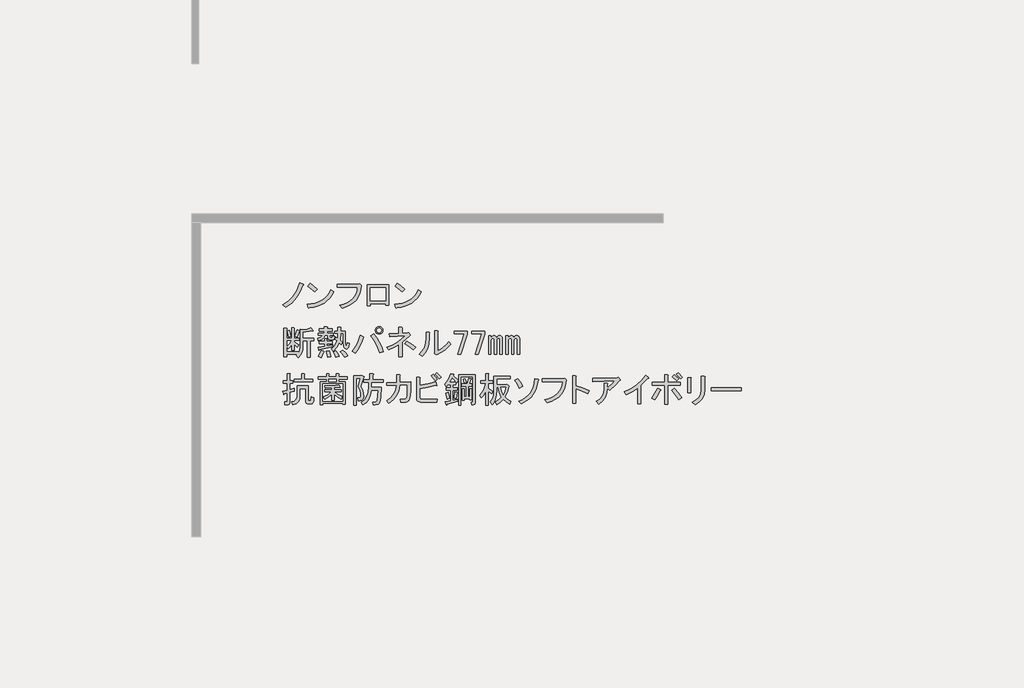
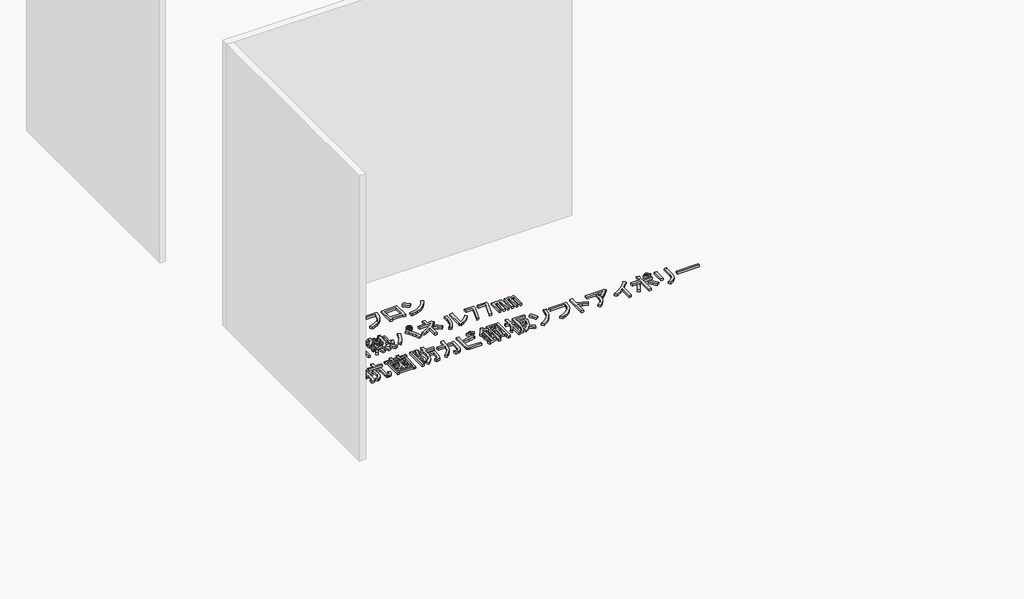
# One storey, part 24 of 117: 1 proxy.
"""IFC4 building model written with IfcOpenShell, lengths in millimetres."""

from ifc_helpers import new_model, si_unit, frame, origin, place, context, project, spatial, polyline, outline, extrude, element, save

model = new_model("IFC4")

# Units and contexts
model_context = context("Model", 3, world=origin())
ifc_project = project(units=[si_unit("LENGTHUNIT", "METRE", prefix="MILLI")], contexts=[model_context])

# Site, building, storey
site = spatial("IfcSite", under=ifc_project)
building = spatial("IfcBuilding", under=site)
storey = spatial("IfcBuildingStorey", under=building, Name="レベル 1", Elevation=500.0)

# Proxy
placement = place(None, origin())
element("IfcBuildingElementProxy", 1, Name="200㎜\u3000MS Pゴシック", ObjectType="200㎜\u3000MS Pゴシック", at=placement, inside=storey, context=model_context, shape_type="SweptSolid", body=[
    extrude(outline(polyline([(-7056.3293015, -607.0496882), (-7081.9047498, -666.8215225), (-7110.353844, -712.7998566), (-7152.0217093, -758.2034615), (-7201.1610538, -795.560858), (-7228.7480543, -773.7211493), (-7181.0455327, -743.2605029), (-7141.3892195, -704.7536481), (-7124.0036619, -680.8305462), (-7108.6296565, -652.7406577), (-7095.2672031, -620.4839827), (-7083.9163019, -584.0605212), (-7052.8809264, -597.8540214), (-7049.7199159, -602.4518548), (-7056.3293015, -607.0496882)])), frame((0.0, 0.0, 500.0), z_axis=(0.0, 0.0, 1.0), x_axis=(1.0, 0.0, 0.0)), (0.0, 0.0, 1.0), 25.0),
    extrude(outline(polyline([(-6956.6022948, -662.2236891), (-7015.2246708, -615.0958967), (-6995.6838788, -590.9572713), (-6968.3842429, -610.7854279), (-6934.7625862, -640.3839804), (-6956.6022948, -662.2236891)])), frame((0.0, 0.0, 500.0), z_axis=(0.0, 0.0, 1.0), x_axis=(1.0, 0.0, 0.0)), (0.0, 0.0, 1.0), 25.0),
    extrude(outline(polyline([(-6794.5286672, -662.2236891), (-6811.052131, -691.965924), (-6830.1618761, -717.9724192), (-6851.8579025, -740.2431748), (-6876.1402102, -758.7781907), (-6903.0087992, -773.577467), (-6932.4636694, -784.6410036), (-6964.504821, -791.9688006), (-6999.1322539, -795.560858), (-7004.8795456, -803.6070664), (-7010.6268374, -797.8597747), (-7019.8225042, -767.9738575), (-6983.9917321, -765.2977748), (-6951.2142088, -758.9937141), (-6921.4899342, -749.0616756), (-6894.8189084, -735.5016591), (-6871.2011313, -718.3136646), (-6850.636603, -697.4976923), (-6833.1253234, -673.053742), (-6818.6672926, -644.9818138), (-6794.5286672, -662.2236891)])), frame((0.0, 0.0, 500.0), z_axis=(0.0, 0.0, 1.0), x_axis=(1.0, 0.0, 0.0)), (0.0, 0.0, 1.0), 25.0),
    extrude(outline(polyline([(-6743.7685864, -777.1695243), (-6709.985287, -767.4889298), (-6680.4765359, -755.1142922), (-6655.242333, -740.0456116), (-6634.2826783, -722.282888), (-6617.597572, -701.8261214), (-6605.1870138, -678.6753118), (-6597.0510039, -652.8304591), (-6593.1895423, -624.2915635), (-6765.6082951, -624.2915635), (-6765.6082951, -599.0034798), (-6590.8906256, -599.0034798), (-6574.7982086, -595.5551047), (-6562.1541668, -607.0496882), (-6565.674383, -643.5449909), (-6573.9361149, -676.5919185), (-6586.9393625, -706.1904711), (-6604.6841258, -732.3406486), (-6627.1704048, -755.042451), (-6654.3981995, -774.2958784), (-6686.3675099, -790.1009308), (-6723.078336, -802.4576081), (-6743.7685864, -777.1695243)])), frame((0.0, 0.0, 500.0), z_axis=(0.0, 0.0, 1.0), x_axis=(1.0, 0.0, 0.0)), (0.0, 0.0, 1.0), 25.0),
    extrude(outline(polyline([(-6329.044013, -776.020066), (-6355.4815551, -776.020066), (-6355.4815551, -763.3760241), (-6483.0714321, -763.3760241), (-6483.0714321, -781.7673577), (-6509.5089742, -781.7673577), (-6509.5089742, -602.4518548), (-6329.044013, -602.4518548), (-6329.044013, -776.020066)]), holes=[polyline([(-6483.0714321, -627.7399386), (-6483.0714321, -738.0879404), (-6355.4815551, -738.0879404), (-6355.4815551, -627.7399386), (-6483.0714321, -627.7399386)])]), frame((0.0, 0.0, 500.0), z_axis=(0.0, 0.0, 1.0), x_axis=(1.0, 0.0, 0.0)), (0.0, 0.0, 1.0), 25.0),
    extrude(outline(polyline([(-6052.9900951, -662.2236891), (-6069.5135589, -691.965924), (-6088.623304, -717.9724192), (-6110.3193304, -740.2431748), (-6134.6016381, -758.7781907), (-6161.4702271, -773.577467), (-6190.9250974, -784.6410036), (-6222.9662489, -791.9688006), (-6257.5936818, -795.560858), (-6263.3409736, -803.6070664), (-6269.0882653, -797.8597747), (-6278.2839321, -767.9738575), (-6242.4531601, -765.2977748), (-6209.6756367, -758.9937141), (-6179.9513622, -749.0616756), (-6153.2803363, -735.5016591), (-6129.6625593, -718.3136646), (-6109.0980309, -697.4976923), (-6091.5867514, -673.053742), (-6077.1287205, -644.9818138), (-6052.9900951, -662.2236891)])), frame((0.0, 0.0, 500.0), z_axis=(0.0, 0.0, 1.0), x_axis=(1.0, 0.0, 0.0)), (0.0, 0.0, 1.0), 25.0),
    extrude(outline(polyline([(-6215.0637228, -662.2236891), (-6273.6860987, -615.0958967), (-6254.1453067, -590.9572713), (-6226.8456709, -610.7854279), (-6193.2240141, -640.3839804), (-6215.0637228, -662.2236891)])), frame((0.0, 0.0, 500.0), z_axis=(0.0, 0.0, 1.0), x_axis=(1.0, 0.0, 0.0)), (0.0, 0.0, 1.0), 25.0),
    extrude(outline(polyline([(-7122.9978859, -1039.2345221), (-7105.7560106, -986.3594379), (-7085.0657603, -992.1067296), (-7083.3415727, -995.2677401), (-7087.364677, -997.8540214), (-7104.6065523, -1046.1312722), (-7122.9978859, -1039.2345221)])), frame((0.0, 0.0, 500.0), z_axis=(0.0, 0.0, 1.0), x_axis=(1.0, 0.0, 0.0)), (0.0, 0.0, 1.0), 25.0),
    extrude(outline(polyline([(-6968.9704667, -990.9572713), (-6970.6946542, -995.5551047), (-6978.1661335, -993.256188), (-7055.1798431, -1005.9002299), (-7055.1798431, -1055.326939), (-6963.2231749, -1055.326939), (-6963.2231749, -1077.1666477), (-6994.2585505, -1077.1666477), (-6994.2585505, -1217.4005666), (-7017.2477175, -1217.4005666), (-7017.2477175, -1077.1666477), (-7055.1798431, -1077.1666477), (-7055.1798431, -1126.5933568), (-7057.7661244, -1154.3958807), (-7065.5249683, -1179.1810764), (-7078.4563747, -1200.948944), (-7096.5603438, -1219.6994833), (-7113.8022191, -1200.1586914), (-7103.4570939, -1190.9630245), (-7193.1148454, -1190.9630245), (-7193.1148454, -1212.8027332), (-7216.1040124, -1212.8027332), (-7216.1040124, -973.715396), (-7194.2643037, -973.715396), (-7189.3791057, -976.0143127), (-7193.1148454, -980.6121461), (-7193.1148454, -1056.4763974), (-7150.5848863, -1056.4763974), (-7150.5848863, -969.1175626), (-7132.1935527, -969.1175626), (-7127.3083547, -971.4164793), (-7131.0440943, -976.0143127), (-7131.0440943, -1056.4763974), (-7087.364677, -1056.4763974), (-7087.364677, -1074.867731), (-7131.0440943, -1074.867731), (-7131.0440943, -1084.0633978), (-7090.813052, -1110.5009399), (-7104.6065523, -1132.3406486), (-7131.0440943, -1105.9031065), (-7131.0440943, -1158.7781907), (-7150.5848863, -1158.7781907), (-7150.5848863, -1110.5009399), (-7163.8036574, -1130.3290965), (-7178.1718868, -1146.1341488), (-7190.8159287, -1127.7428152), (-7168.97622, -1103.6041898), (-7151.7343447, -1074.867731), (-7193.1148454, -1074.867731), (-7193.1148454, -1169.1233159), (-7095.4108854, -1169.1233159), (-7095.4108854, -1182.9168161), (-7082.479479, -1158.7781907), (-7078.1690102, -1125.4438985), (-7078.1690102, -980.6121461), (-7056.3293015, -986.3594379), (-7020.1213634, -978.8879586), (-6989.660717, -965.6691875), (-6968.9704667, -990.9572713)])), frame((0.0, 0.0, 500.0), z_axis=(0.0, 0.0, 1.0), x_axis=(1.0, 0.0, 0.0)), (0.0, 0.0, 1.0), 25.0),
    extrude(outline(polyline([(-7177.0224284, -1047.2807305), (-7189.6664703, -996.7045631), (-7170.1256783, -989.8078129), (-7162.3668344, -1013.9464383), (-7157.4816364, -1040.3839804), (-7177.0224284, -1047.2807305)])), frame((0.0, 0.0, 500.0), z_axis=(0.0, 0.0, 1.0), x_axis=(1.0, 0.0, 0.0)), (0.0, 0.0, 1.0), 25.0),
    extrude(outline(polyline([(-6878.1632569, -1167.9738575), (-6874.7148818, -1172.8590555), (-6880.4621736, -1176.020066), (-6890.2325696, -1201.5955143), (-6901.1524239, -1220.8489417), (-6924.141591, -1209.3543582), (-6911.4975491, -1185.790462), (-6901.1524239, -1158.7781907), (-6878.1632569, -1167.9738575)])), frame((0.0, 0.0, 500.0), z_axis=(0.0, 0.0, 1.0), x_axis=(1.0, 0.0, 0.0)), (0.0, 0.0, 1.0), 25.0),
    extrude(outline(polyline([(-6833.3343812, -1163.3760241), (-6823.2766206, -1190.67566), (-6818.3914226, -1212.8027332), (-6847.1278814, -1218.550025), (-6849.7141627, -1196.9976809), (-6857.4730066, -1166.8243992), (-6833.3343812, -1163.3760241)])), frame((0.0, 0.0, 500.0), z_axis=(0.0, 0.0, 1.0), x_axis=(1.0, 0.0, 0.0)), (0.0, 0.0, 1.0), 25.0),
    extrude(outline(polyline([(-6718.388546, -1157.6287323), (-6693.6751914, -1178.8937119), (-6674.7091286, -1203.6070664), (-6701.1466707, -1218.550025), (-6720.4000981, -1188.9514724), (-6739.0787963, -1169.1233159), (-6718.388546, -1157.6287323)])), frame((0.0, 0.0, 500.0), z_axis=(0.0, 0.0, 1.0), x_axis=(1.0, 0.0, 0.0)), (0.0, 0.0, 1.0), 25.0),
    extrude(outline(polyline([(-6777.0109219, -1216.2511083), (-6785.344495, -1191.5377537), (-6798.8506306, -1170.2727742), (-6778.1603803, -1162.2265657), (-6761.2058696, -1183.7789098), (-6749.4239215, -1207.0554415), (-6777.0109219, -1216.2511083)])), frame((0.0, 0.0, 500.0), z_axis=(0.0, 0.0, 1.0), x_axis=(1.0, 0.0, 0.0)), (0.0, 0.0, 1.0), 25.0),
    extrude(outline(polyline([(-6916.0953825, -1153.0308989), (-6918.1069346, -1157.9160969), (-6921.8426743, -1156.479274), (-6927.589966, -1132.3406486), (-6872.4159651, -1124.2944401), (-6872.4159651, -1101.3052731), (-6916.0953825, -1101.3052731), (-6916.0953825, -1082.9139395), (-6872.4159651, -1082.9139395), (-6872.4159651, -1059.9247724), (-6854.0246315, -1059.9247724), (-6849.1394335, -1062.2236891), (-6852.8751732, -1066.8215225), (-6852.8751732, -1082.9139395), (-6808.0462974, -1082.9139395), (-6808.0462974, -1101.3052731), (-6852.8751732, -1101.3052731), (-6852.8751732, -1120.8460651), (-6802.2990057, -1111.6503983), (-6802.2990057, -1127.7428152), (-6916.0953825, -1153.0308989)])), frame((0.0, 0.0, 500.0), z_axis=(0.0, 0.0, 1.0), x_axis=(1.0, 0.0, 0.0)), (0.0, 0.0, 1.0), 25.0),
    extrude(outline(polyline([(-6845.978423, -1031.1883136), (-6871.2665068, -1031.1883136), (-6875.8643402, -1048.6457123), (-6886.2094654, -1061.9363245), (-6902.3018823, -1071.0601502), (-6924.141591, -1076.0171893), (-6928.7394244, -1056.4763974), (-6903.4513406, -1047.8554597), (-6895.9798614, -1040.5276627), (-6891.9567571, -1031.1883136), (-6927.589966, -1031.1883136), (-6927.589966, -1012.79698), (-6873.5654235, -1012.79698), (-6873.5654235, -995.5551047), (-6917.2448409, -995.5551047), (-6917.2448409, -977.1637711), (-6873.5654235, -977.1637711), (-6873.5654235, -958.7724374), (-6851.7257148, -958.7724374), (-6846.8405168, -961.0713541), (-6850.5762564, -965.6691875), (-6850.5762564, -977.1637711), (-6808.0462974, -977.1637711), (-6808.0462974, -995.5551047), (-6850.5762564, -995.5551047), (-6850.5762564, -1012.79698), (-6797.7011723, -1012.79698), (-6797.7011723, -1031.1883136), (-6826.4376311, -1031.1883136), (-6826.4376311, -1043.8323555), (-6825.0008081, -1049.0049181), (-6820.6903393, -1050.7291056), (-6810.3452141, -1050.7291056), (-6806.6094745, -1047.5680951), (-6806.8968391, -1038.0850637), (-6787.3560471, -1040.3839804), (-6790.229693, -1061.9363245), (-6795.5459378, -1067.3244106), (-6803.448464, -1069.1204392), (-6827.5870894, -1069.1204392), (-6841.3805896, -1064.2352412), (-6845.978423, -1049.5796472), (-6845.978423, -1031.1883136)])), frame((0.0, 0.0, 500.0), z_axis=(0.0, 0.0, 1.0), x_axis=(1.0, 0.0, 0.0)), (0.0, 0.0, 1.0), 25.0),
    extrude(outline(polyline([(-6714.9401709, -1013.9464383), (-6736.7798796, -1013.9464383), (-6741.377713, -1071.4193559), (-6721.836921, -1089.8106896), (-6732.1820462, -1111.6503983), (-6748.2744631, -1095.5579813), (-6767.5278905, -1133.2027424), (-6797.7011723, -1165.6749408), (-6814.9430475, -1144.9846905), (-6799.8564067, -1133.0590601), (-6786.7813179, -1117.9724192), (-6775.7177813, -1099.7247679), (-6766.6657967, -1078.316106), (-6783.907672, -1063.3731475), (-6775.8614636, -1046.1312722), (-6762.0679633, -1056.4763974), (-6759.7690466, -1013.9464383), (-6787.3560471, -1013.9464383), (-6787.3560471, -995.5551047), (-6759.7690466, -995.5551047), (-6759.7690466, -961.0713541), (-6737.9293379, -961.0713541), (-6733.04414, -963.3702708), (-6736.7798796, -967.9681043), (-6736.7798796, -995.5551047), (-6695.3993789, -995.5551047), (-6695.3993789, -1092.1096063), (-6691.9510039, -1116.2482317), (-6688.7181523, -1118.2597838), (-6685.9163475, -1115.0987733), (-6681.6058787, -1093.2590646), (-6662.0650867, -1100.1558147), (-6666.591079, -1126.9525626), (-6674.421764, -1142.9731384), (-6685.5571418, -1148.2175421), (-6699.9972123, -1142.6857738), (-6706.5347567, -1135.3579768), (-6711.2044313, -1123.719711), (-6714.9401709, -1087.5117729), (-6714.9401709, -1013.9464383)])), frame((0.0, 0.0, 500.0), z_axis=(0.0, 0.0, 1.0), x_axis=(1.0, 0.0, 0.0)), (0.0, 0.0, 1.0), 25.0),
    extrude(outline(polyline([(-6456.3120417, -1016.245355), (-6429.6589762, -1052.9561812), (-6407.1726971, -1090.6727833), (-6388.8532047, -1129.3951616), (-6374.7004987, -1169.1233159), (-6405.7358742, -1179.468441), (-6421.1817208, -1136.3637528), (-6438.7828018, -1097.856898), (-6458.5391173, -1063.9478766), (-6480.4506671, -1034.6366887), (-6456.3120417, -1016.245355)])), frame((0.0, 0.0, 500.0), z_axis=(0.0, 0.0, 1.0), x_axis=(1.0, 0.0, 0.0)), (0.0, 0.0, 1.0), 25.0),
    extrude(outline(polyline([(-6543.6708765, -1042.6828971), (-6539.6477722, -1048.1428243), (-6545.9697932, -1053.0280223), (-6557.8954236, -1088.4457078), (-6572.9820644, -1122.282888), (-6591.2297158, -1154.539563), (-6612.6383776, -1185.2157328), (-6639.0759197, -1167.9738575), (-6615.8712292, -1136.5074351), (-6596.8333252, -1103.0294606), (-6581.9622078, -1067.539934), (-6571.2578769, -1030.0388553), (-6543.6708765, -1042.6828971)])), frame((0.0, 0.0, 500.0), z_axis=(0.0, 0.0, 1.0), x_axis=(1.0, 0.0, 0.0)), (0.0, 0.0, 1.0), 25.0),
    extrude(outline(polyline([(-6410.3337076, -1021.9926468), (-6422.9777495, -1019.6937301), (-6433.3228747, -1012.79698), (-6440.2196248, -1002.4518548), (-6442.5185415, -989.8078129), (-6440.2196248, -977.1637711), (-6433.3228747, -966.8186459), (-6422.9777495, -959.9218958), (-6410.3337076, -957.6229791), (-6397.6896657, -959.9218958), (-6387.3445406, -966.8186459), (-6380.4477905, -977.1637711), (-6378.1488738, -989.8078129), (-6380.4477905, -1002.4518548), (-6387.3445406, -1012.79698), (-6397.6896657, -1019.6937301), (-6410.3337076, -1021.9926468)]), holes=[polyline([(-6410.3337076, -1010.4980633), (-6402.0001346, -1009.0612403), (-6395.390749, -1004.7507715), (-6391.0802802, -998.141386), (-6389.6434573, -989.8078129), (-6391.0802802, -981.4742399), (-6395.390749, -974.8648544), (-6402.0001346, -970.5543855), (-6410.3337076, -969.1175626), (-6418.6672807, -970.5543855), (-6425.2766662, -974.8648544), (-6429.587135, -981.4742399), (-6431.023958, -989.8078129), (-6429.587135, -998.141386), (-6425.2766662, -1004.7507715), (-6418.6672807, -1009.0612403), (-6410.3337076, -1010.4980633)])]), frame((0.0, 0.0, 500.0), z_axis=(0.0, 0.0, 1.0), x_axis=(1.0, 0.0, 0.0)), (0.0, 0.0, 1.0), 25.0),
    extrude(outline(polyline([(-6120.6702029, -1155.3298156), (-6157.7402348, -1126.0186277), (-6190.7871624, -1104.7536481), (-6173.5452871, -1082.9139395), (-6134.7510677, -1106.1904711), (-6101.1294109, -1132.3406486), (-6120.6702029, -1155.3298156)])), frame((0.0, 0.0, 500.0), z_axis=(0.0, 0.0, 1.0), x_axis=(1.0, 0.0, 0.0)), (0.0, 0.0, 1.0), 25.0),
    extrude(outline(polyline([(-6166.648537, -1011.6475216), (-6159.7517869, -1009.3486049), (-6147.107745, -1026.5904802), (-6145.9582866, -1032.6251366), (-6151.7055784, -1034.6366887), (-6214.9257878, -1090.9601479), (-6214.9257878, -1211.6532749), (-6241.3633299, -1211.6532749), (-6241.3633299, -1109.3514816), (-6281.5943722, -1133.4901069), (-6326.4232479, -1155.3298156), (-6345.9640399, -1134.6395653), (-6300.4167527, -1115.1706145), (-6259.1799343, -1092.3969709), (-6222.2535848, -1066.3186345), (-6189.637704, -1036.9356054), (-6319.5264978, -1042.6828971), (-6322.9748729, -1017.3948134), (-6241.3633299, -1015.0958967), (-6241.3633299, -963.3702708), (-6218.3741628, -963.3702708), (-6212.3395065, -966.8186459), (-6214.9257878, -972.5659377), (-6214.9257878, -1013.9464383), (-6166.648537, -1011.6475216)])), frame((0.0, 0.0, 500.0), z_axis=(0.0, 0.0, 1.0), x_axis=(1.0, 0.0, 0.0)), (0.0, 0.0, 1.0), 25.0),
    extrude(outline(polyline([(-6067.703162, -1193.2619413), (-6042.5587606, -1164.0225944), (-6024.5984738, -1131.4785548), (-6013.8223018, -1095.6298225), (-6010.2302444, -1056.4763974), (-6010.2302444, -1004.7507715), (-5986.091619, -1004.7507715), (-5980.3443273, -1008.1991466), (-5983.7927023, -1013.9464383), (-5983.7927023, -1055.326939), (-5987.6002831, -1101.0897496), (-5999.0230255, -1141.82368), (-6018.0609295, -1177.5287301), (-6044.713995, -1208.2048998), (-6067.703162, -1193.2619413)])), frame((0.0, 0.0, 500.0), z_axis=(0.0, 0.0, 1.0), x_axis=(1.0, 0.0, 0.0)), (0.0, 0.0, 1.0), 25.0),
    extrude(outline(polyline([(-5913.6757429, -1162.2265657), (-5888.8905471, -1150.0135708), (-5865.1111275, -1132.9153778), (-5842.3374839, -1110.9319868), (-5820.5696163, -1084.0633978), (-5804.4771994, -1105.9031065), (-5827.753731, -1133.7056304), (-5853.9039086, -1157.3413678), (-5882.9277319, -1176.8103186), (-5914.8252012, -1192.1124829), (-5924.020868, -1196.7103163), (-5942.4122017, -1182.9168161), (-5940.113285, -1177.1695243), (-5940.113285, -992.1067296), (-5915.9746596, -992.1067296), (-5910.2273678, -995.5551047), (-5913.6757429, -1001.3023965), (-5913.6757429, -1162.2265657)])), frame((0.0, 0.0, 500.0), z_axis=(0.0, 0.0, 1.0), x_axis=(1.0, 0.0, 0.0)), (0.0, 0.0, 1.0), 25.0),
    extrude(outline(polyline([(-5772.2923656, -995.5551047), (-5663.0938221, -995.5551047), (-5663.0938221, -1020.8431884), (-5718.267823, -1192.1124829), (-5743.5559068, -1192.1124829), (-5688.3819059, -1017.3948134), (-5772.2923656, -1017.3948134), (-5772.2923656, -995.5551047)])), frame((0.0, 0.0, 500.0), z_axis=(0.0, 0.0, 1.0), x_axis=(1.0, 0.0, 0.0)), (0.0, 0.0, 1.0), 25.0),
    extrude(outline(polyline([(-5625.1616965, -995.5551047), (-5515.9631531, -995.5551047), (-5515.9631531, -1020.8431884), (-5571.137154, -1192.1124829), (-5596.4252377, -1192.1124829), (-5541.2512368, -1017.3948134), (-5625.1616965, -1017.3948134), (-5625.1616965, -995.5551047)])), frame((0.0, 0.0, 500.0), z_axis=(0.0, 0.0, 1.0), x_axis=(1.0, 0.0, 0.0)), (0.0, 0.0, 1.0), 25.0),
    extrude(outline(polyline([(-5241.2426069, -1032.337772), (-5232.9090339, -1033.7745949), (-5226.2996483, -1038.0850637), (-5221.1270858, -1046.7060014), (-5219.4028982, -1058.7753141), (-5219.4028982, -1193.2619413), (-5238.9436902, -1193.2619413), (-5238.9436902, -1069.1204392), (-5241.5299715, -1059.6374078), (-5249.2888154, -1056.4763974), (-5259.6339406, -1061.0742308), (-5265.6685969, -1069.6951684), (-5267.680149, -1079.4655644), (-5267.680149, -1193.2619413), (-5287.220941, -1193.2619413), (-5287.220941, -1069.1204392), (-5289.8072223, -1059.6374078), (-5297.5660662, -1056.4763974), (-5307.9111913, -1061.0742308), (-5313.9458477, -1069.6951684), (-5315.9573998, -1079.4655644), (-5315.9573998, -1193.2619413), (-5335.4981918, -1193.2619413), (-5335.4981918, -1035.786147), (-5315.9573998, -1035.786147), (-5315.9573998, -1053.0280223), (-5303.8880871, -1037.5103346), (-5290.6693161, -1032.337772), (-5281.4736492, -1033.7745949), (-5274.5768991, -1038.0850637), (-5267.680149, -1051.878564), (-5254.7487426, -1037.22297), (-5241.2426069, -1032.337772)])), frame((0.0, 0.0, 500.0), z_axis=(0.0, 0.0, 1.0), x_axis=(1.0, 0.0, 0.0)), (0.0, 0.0, 1.0), 25.0),
    extrude(outline(polyline([(-5463.0880689, -1193.2619413), (-5482.6288608, -1193.2619413), (-5482.6288608, -1035.786147), (-5463.0880689, -1035.786147), (-5463.0880689, -1053.0280223), (-5451.0187562, -1037.5103346), (-5437.7999851, -1032.337772), (-5428.6043183, -1033.7745949), (-5421.7075682, -1038.0850637), (-5414.8108181, -1051.878564), (-5401.8794116, -1037.22297), (-5388.373276, -1032.337772), (-5380.0397029, -1033.7745949), (-5373.4303174, -1038.0850637), (-5368.2577548, -1046.7060014), (-5366.5335673, -1058.7753141), (-5366.5335673, -1193.2619413), (-5386.0743593, -1193.2619413), (-5386.0743593, -1069.1204392), (-5388.6606406, -1059.6374078), (-5396.4194844, -1056.4763974), (-5406.7646096, -1061.0742308), (-5412.799266, -1069.6951684), (-5414.8108181, -1079.4655644), (-5414.8108181, -1193.2619413), (-5434.3516101, -1193.2619413), (-5434.3516101, -1069.1204392), (-5436.9378914, -1059.6374078), (-5444.6967352, -1056.4763974), (-5455.0418604, -1061.0742308), (-5461.0765167, -1069.6951684), (-5463.0880689, -1079.4655644), (-5463.0880689, -1193.2619413)])), frame((0.0, 0.0, 500.0), z_axis=(0.0, 0.0, 1.0), x_axis=(1.0, 0.0, 0.0)), (0.0, 0.0, 1.0), 25.0),
    extrude(outline(polyline([(-7212.6556373, -1527.7428152), (-7216.1040124, -1533.7774715), (-7219.5523875, -1528.8922735), (-7227.5985959, -1505.9031065), (-7189.6664703, -1497.856898), (-7189.6664703, -1438.0850637), (-7223.0007625, -1438.0850637), (-7223.0007625, -1416.245355), (-7189.6664703, -1416.245355), (-7189.6664703, -1356.4735207), (-7167.8267616, -1356.4735207), (-7162.9415636, -1358.7724374), (-7166.6773033, -1363.3702708), (-7166.6773033, -1416.245355), (-7140.2397612, -1416.245355), (-7140.2397612, -1438.0850637), (-7166.6773033, -1438.0850637), (-7166.6773033, -1492.1096063), (-7131.0440943, -1481.7644811), (-7128.7451776, -1503.6041898), (-7166.6773033, -1515.0987733), (-7166.6773033, -1603.6070664), (-7170.4130429, -1615.6763791), (-7181.6202618, -1619.6994833), (-7208.0578039, -1619.6994833), (-7211.506179, -1594.4113996), (-7194.2643037, -1594.4113996), (-7190.8159287, -1593.2619413), (-7189.6664703, -1589.8135662), (-7189.6664703, -1520.8460651), (-7212.6556373, -1527.7428152)])), frame((0.0, 0.0, 500.0), z_axis=(0.0, 0.0, 1.0), x_axis=(1.0, 0.0, 0.0)), (0.0, 0.0, 1.0), 25.0),
    extrude(outline(polyline([(-7066.6744266, -1403.6013132), (-7066.6744266, -1357.6229791), (-7044.8347179, -1357.6229791), (-7039.9495199, -1359.9218958), (-7043.6852596, -1364.5197292), (-7043.6852596, -1403.6013132), (-6972.4188418, -1403.6013132), (-6972.4188418, -1425.4410219), (-7128.7451776, -1425.4410219), (-7128.7451776, -1403.6013132), (-7066.6744266, -1403.6013132)])), frame((0.0, 0.0, 500.0), z_axis=(0.0, 0.0, 1.0), x_axis=(1.0, 0.0, 0.0)), (0.0, 0.0, 1.0), 25.0),
    extrude(outline(polyline([(-7010.3509674, -1461.0742308), (-7010.3509674, -1577.1695243), (-7008.3394153, -1584.0662744), (-7002.3047589, -1586.3651911), (-6995.4080088, -1586.3651911), (-6990.8101754, -1584.0662744), (-6988.5112587, -1577.1695243), (-6986.212342, -1554.1803573), (-6962.0737166, -1562.2265657), (-6964.3726333, -1585.2157328), (-6966.67155, -1596.7821575), (-6971.2693834, -1605.0438894), (-6978.1661335, -1610.0009285), (-6987.3618003, -1611.6532749), (-7009.201509, -1611.6532749), (-7019.7621576, -1610.3601342), (-7027.3054781, -1606.4807123), (-7031.8314703, -1600.0150091), (-7033.3401344, -1590.9630245), (-7033.3401344, -1482.9139395), (-7080.4679269, -1482.9139395), (-7080.4679269, -1548.4330655), (-7084.2036665, -1573.2901024), (-7095.4108854, -1593.8366704), (-7114.0895837, -1610.0727697), (-7140.2397612, -1621.9984001), (-7149.435428, -1596.7103163), (-7129.3199068, -1589.238837), (-7114.9516774, -1578.3189827), (-7106.3307398, -1563.9507533), (-7103.4570939, -1546.1341488), (-7103.4570939, -1461.0742308), (-7010.3509674, -1461.0742308)])), frame((0.0, 0.0, 500.0), z_axis=(0.0, 0.0, 1.0), x_axis=(1.0, 0.0, 0.0)), (0.0, 0.0, 1.0), 25.0),
    extrude(outline(polyline([(-6870.1170484, -1461.0742308), (-6804.0231932, -1457.3384911), (-6752.8722965, -1450.7291056), (-6742.5271714, -1464.5226058), (-6740.2282547, -1470.5572622), (-6747.1250048, -1470.2698976), (-6791.9538805, -1473.7182726), (-6791.9538805, -1490.9601479), (-6732.1820462, -1490.9601479), (-6732.1820462, -1509.3514816), (-6788.5055054, -1509.3514816), (-6757.1827653, -1533.7774715), (-6720.6874627, -1549.5825239), (-6728.7336711, -1571.4222326), (-6761.2058696, -1555.9045448), (-6791.9538805, -1530.0417319), (-6791.9538805, -1580.6178994), (-6811.4946725, -1580.6178994), (-6811.4946725, -1531.1911902), (-6836.4953916, -1553.8929927), (-6872.4159651, -1573.7211493), (-6881.611632, -1554.1803573), (-6842.8174126, -1534.3522007), (-6813.7935892, -1509.3514816), (-6871.2665068, -1509.3514816), (-6871.2665068, -1490.9601479), (-6811.4946725, -1490.9601479), (-6811.4946725, -1476.0171893), (-6865.519215, -1478.316106), (-6870.1170484, -1461.0742308)])), frame((0.0, 0.0, 500.0), z_axis=(0.0, 0.0, 1.0), x_axis=(1.0, 0.0, 0.0)), (0.0, 0.0, 1.0), 25.0),
    extrude(outline(polyline([(-6751.7228382, -1423.1421052), (-6696.5488373, -1423.1421052), (-6696.5488373, -1617.4005666), (-6716.0896293, -1617.4005666), (-6716.0896293, -1608.2048998), (-6888.5083821, -1608.2048998), (-6888.5083821, -1621.9984001), (-6908.0491741, -1621.9984001), (-6908.0491741, -1423.1421052), (-6855.1740899, -1423.1421052), (-6855.1740899, -1402.4518548), (-6925.2910493, -1402.4518548), (-6925.2910493, -1384.0605212), (-6855.1740899, -1384.0605212), (-6855.1740899, -1357.6229791), (-6836.7827562, -1357.6229791), (-6831.8975582, -1359.9218958), (-6835.6332979, -1364.5197292), (-6835.6332979, -1384.0605212), (-6771.2636302, -1384.0605212), (-6771.2636302, -1357.6229791), (-6752.8722965, -1357.6229791), (-6747.9870985, -1359.9218958), (-6751.7228382, -1364.5197292), (-6751.7228382, -1384.0605212), (-6678.1575036, -1384.0605212), (-6678.1575036, -1402.4518548), (-6751.7228382, -1402.4518548), (-6751.7228382, -1423.1421052)]), holes=[polyline([(-6888.5083821, -1441.5334388), (-6888.5083821, -1589.8135662), (-6716.0896293, -1589.8135662), (-6716.0896293, -1441.5334388), (-6888.5083821, -1441.5334388)]), polyline([(-6835.6332979, -1423.1421052), (-6771.2636302, -1423.1421052), (-6771.2636302, -1402.4518548), (-6835.6332979, -1402.4518548), (-6835.6332979, -1423.1421052)])]), frame((0.0, 0.0, 500.0), z_axis=(0.0, 0.0, 1.0), x_axis=(1.0, 0.0, 0.0)), (0.0, 0.0, 1.0), 25.0),
    extrude(outline(polyline([(-6542.5214181, -1520.8460651), (-6540.5817071, -1548.5049067), (-6545.1076994, -1568.2612221), (-6556.0993949, -1580.1150114), (-6573.5567936, -1584.0662744), (-6587.3502938, -1584.0662744), (-6591.9481272, -1562.2265657), (-6580.4535437, -1562.2265657), (-6572.1199707, -1560.0713313), (-6566.6600435, -1553.6056281), (-6564.0737622, -1542.8294561), (-6564.3611268, -1527.7428152), (-6571.2578769, -1500.7305439), (-6587.3502938, -1465.6720642), (-6568.9589602, -1394.4056463), (-6603.4427108, -1394.4056463), (-6603.4427108, -1623.1478584), (-6626.4318778, -1623.1478584), (-6626.4318778, -1372.5659377), (-6562.0622101, -1372.5659377), (-6559.7632934, -1367.9681043), (-6535.624668, -1380.6121461), (-6534.187845, -1384.3478858), (-6539.073043, -1386.3594379), (-6565.5105851, -1464.5226058), (-6549.9928974, -1496.9948043), (-6542.5214181, -1520.8460651)])), frame((0.0, 0.0, 500.0), z_axis=(0.0, 0.0, 1.0), x_axis=(1.0, 0.0, 0.0)), (0.0, 0.0, 1.0), 25.0),
    extrude(outline(polyline([(-6475.8528337, -1495.5579813), (-6483.0369484, -1538.7345107), (-6497.6925424, -1574.0085139), (-6519.8196156, -1601.3799909), (-6549.4181682, -1620.8489417), (-6560.9127517, -1597.8597747), (-6533.2539101, -1578.0316181), (-6513.4975947, -1549.5825239), (-6501.6438055, -1512.512492), (-6497.6925424, -1466.8215225), (-6497.6925424, -1428.8893969), (-6541.3719597, -1428.8893969), (-6541.3719597, -1407.0496882), (-6488.4968756, -1407.0496882), (-6488.4968756, -1358.7724374), (-6463.2087918, -1358.7724374), (-6457.1741355, -1362.2208125), (-6462.0593335, -1367.9681043), (-6462.0593335, -1407.0496882), (-6373.5510404, -1407.0496882), (-6373.5510404, -1428.8893969), (-6474.7033753, -1428.8893969), (-6474.7033753, -1473.7182726), (-6391.942374, -1473.7182726), (-6397.6896657, -1555.9045448), (-6405.7358742, -1600.1586914), (-6410.6210722, -1608.7077879), (-6418.3799161, -1614.8142854), (-6442.5185415, -1619.6994833), (-6460.9098751, -1619.6994833), (-6464.3582502, -1597.8597747), (-6447.1163749, -1597.8597747), (-6434.7596976, -1594.6987642), (-6427.5755829, -1585.2157328), (-6418.3799161, -1495.5579813), (-6475.8528337, -1495.5579813)])), frame((0.0, 0.0, 500.0), z_axis=(0.0, 0.0, 1.0), x_axis=(1.0, 0.0, 0.0)), (0.0, 0.0, 1.0), 25.0),
    extrude(outline(polyline([(-6170.096912, -1450.7291056), (-6235.6160381, -1453.0280223), (-6243.87777, -1499.293721), (-6261.7662156, -1540.3868571), (-6289.2813749, -1576.3074306), (-6326.4232479, -1607.0554415), (-6345.9640399, -1587.5146495), (-6310.9774013, -1559.2810787), (-6285.3301118, -1527.4554506), (-6269.0221715, -1492.0377651), (-6262.0535802, -1453.0280223), (-6343.6651232, -1455.326939), (-6345.9640399, -1432.337772), (-6260.9041219, -1430.0388553), (-6260.9041219, -1365.6691875), (-6236.7654965, -1365.6691875), (-6229.8687463, -1369.1175626), (-6234.4665798, -1374.8648544), (-6234.4665798, -1430.0388553), (-6143.6593699, -1426.5904802), (-6143.6593699, -1497.856898), (-6146.2456512, -1545.8467842), (-6154.0044951, -1577.1695243), (-6160.6138806, -1587.2272849), (-6170.096912, -1594.4113996), (-6182.4535893, -1598.7218684), (-6197.6839125, -1600.1586914), (-6225.2709129, -1600.1586914), (-6228.719288, -1571.4222326), (-6198.8333708, -1573.7211493), (-6184.752506, -1570.8475034), (-6176.9936622, -1562.2265657), (-6171.8210996, -1536.938482), (-6170.096912, -1497.856898), (-6170.096912, -1450.7291056)])), frame((0.0, 0.0, 500.0), z_axis=(0.0, 0.0, 1.0), x_axis=(1.0, 0.0, 0.0)), (0.0, 0.0, 1.0), 25.0),
    extrude(outline(polyline([(-5919.606948, -1453.0280223), (-5919.3195834, -1459.0626787), (-5929.9520731, -1456.4763974), (-5996.0459284, -1471.7067205), (-6065.5881587, -1482.9139395), (-6065.5881587, -1557.6287323), (-6061.852419, -1568.8359513), (-6050.6452001, -1572.5716909), (-5918.4574896, -1572.5716909), (-5920.7564063, -1597.8597747), (-6055.2430335, -1597.8597747), (-6071.3354504, -1595.9919048), (-6082.830034, -1590.3882954), (-6089.7267841, -1581.0489463), (-6092.0257008, -1567.9738575), (-6092.0257008, -1387.5088962), (-6069.0365337, -1387.5088962), (-6061.852419, -1390.9572713), (-6065.5881587, -1396.7045631), (-6065.5881587, -1455.326939), (-5992.3101887, -1443.5449909), (-5928.8026148, -1426.5904802), (-5919.606948, -1453.0280223)])), frame((0.0, 0.0, 500.0), z_axis=(0.0, 0.0, 1.0), x_axis=(1.0, 0.0, 0.0)), (0.0, 0.0, 1.0), 25.0),
    extrude(outline(polyline([(-5933.4004482, -1415.0958967), (-5969.0336571, -1374.8648544), (-5952.9412402, -1362.2208125), (-5917.3080313, -1402.4518548), (-5933.4004482, -1415.0958967)])), frame((0.0, 0.0, 500.0), z_axis=(0.0, 0.0, 1.0), x_axis=(1.0, 0.0, 0.0)), (0.0, 0.0, 1.0), 25.0),
    extrude(outline(polyline([(-5900.066156, -1399.0034798), (-5935.6993649, -1359.9218958), (-5921.9058647, -1347.2778539), (-5885.1231974, -1386.3594379), (-5900.066156, -1399.0034798)])), frame((0.0, 0.0, 500.0), z_axis=(0.0, 0.0, 1.0), x_axis=(1.0, 0.0, 0.0)), (0.0, 0.0, 1.0), 25.0),
    extrude(outline(polyline([(-5750.4526569, -1434.6366887), (-5791.8331575, -1390.9572713), (-5813.6728662, -1430.0388553), (-5758.4988653, -1430.0388553), (-5758.4988653, -1448.4301889), (-5784.9364074, -1448.4301889), (-5784.9364074, -1477.1666477), (-5747.0042818, -1477.1666477), (-5747.0042818, -1495.5579813), (-5784.9364074, -1495.5579813), (-5784.9364074, -1582.9168161), (-5745.8548235, -1572.5716909), (-5743.5559068, -1592.1124829), (-5835.5125749, -1617.4005666), (-5837.8114916, -1623.1478584), (-5842.409325, -1619.6994833), (-5849.3060752, -1596.7103163), (-5804.4771994, -1587.5146495), (-5804.4771994, -1495.5579813), (-5842.409325, -1495.5579813), (-5842.409325, -1477.1666477), (-5804.4771994, -1477.1666477), (-5804.4771994, -1448.4301889), (-5826.3169081, -1448.4301889), (-5841.2598667, -1466.8215225), (-5853.9039086, -1446.1312722), (-5825.7421789, -1408.4865112), (-5801.0288244, -1357.6229791), (-5779.1891157, -1363.3702708), (-5775.7407406, -1367.1060105), (-5781.4880324, -1369.1175626), (-5782.6374907, -1372.5659377), (-5737.808615, -1410.4980633), (-5750.4526569, -1434.6366887)])), frame((0.0, 0.0, 500.0), z_axis=(0.0, 0.0, 1.0), x_axis=(1.0, 0.0, 0.0)), (0.0, 0.0, 1.0), 25.0),
    extrude(outline(polyline([(-5735.5096983, -1365.6691875), (-5595.2757793, -1365.6691875), (-5595.2757793, -1605.9059831), (-5599.011519, -1617.1132021), (-5610.2187379, -1620.8489417), (-5626.3111549, -1620.8489417), (-5630.9089883, -1599.009233), (-5619.4144047, -1599.009233), (-5615.9660297, -1597.8597747), (-5614.8165713, -1594.4113996), (-5614.8165713, -1384.0605212), (-5715.9689063, -1384.0605212), (-5715.9689063, -1623.1478584), (-5735.5096983, -1623.1478584), (-5735.5096983, -1365.6691875)])), frame((0.0, 0.0, 500.0), z_axis=(0.0, 0.0, 1.0), x_axis=(1.0, 0.0, 0.0)), (0.0, 0.0, 1.0), 25.0),
    extrude(outline(polyline([(-5747.0042818, -1513.949315), (-5744.4180005, -1517.1103254), (-5748.1537402, -1519.6966067), (-5756.1999486, -1566.8243992), (-5774.5912823, -1564.5254825), (-5768.8439905, -1510.5009399), (-5747.0042818, -1513.949315)])), frame((0.0, 0.0, 500.0), z_axis=(0.0, 0.0, 1.0), x_axis=(1.0, 0.0, 0.0)), (0.0, 0.0, 1.0), 25.0),
    extrude(outline(polyline([(-5824.0179914, -1515.0987733), (-5812.5234079, -1566.8243992), (-5833.2136582, -1572.5716909), (-5844.7082417, -1520.8460651), (-5824.0179914, -1515.0987733)])), frame((0.0, 0.0, 500.0), z_axis=(0.0, 0.0, 1.0), x_axis=(1.0, 0.0, 0.0)), (0.0, 0.0, 1.0), 25.0),
    extrude(outline(polyline([(-5682.6346141, -1397.8540214), (-5675.4504994, -1413.0843446), (-5669.9905722, -1433.4872303), (-5687.2324475, -1439.2345221), (-5698.727031, -1402.4518548), (-5682.6346141, -1397.8540214)])), frame((0.0, 0.0, 500.0), z_axis=(0.0, 0.0, 1.0), x_axis=(1.0, 0.0, 0.0)), (0.0, 0.0, 1.0), 25.0),
    extrude(outline(polyline([(-5629.7595299, -1399.0034798), (-5627.1732486, -1402.4518548), (-5633.207905, -1405.9002299), (-5645.8519468, -1443.8323555), (-5625.1616965, -1443.8323555), (-5625.1616965, -1462.2236891), (-5656.197072, -1462.2236891), (-5656.197072, -1550.7319822), (-5641.2541134, -1550.7319822), (-5641.2541134, -1482.9139395), (-5625.1616965, -1482.9139395), (-5625.1616965, -1577.1695243), (-5641.2541134, -1577.1695243), (-5641.2541134, -1569.1233159), (-5687.2324475, -1569.1233159), (-5687.2324475, -1581.7673577), (-5703.3248644, -1581.7673577), (-5703.3248644, -1485.2128562), (-5687.2324475, -1485.2128562), (-5687.2324475, -1550.7319822), (-5672.2894889, -1550.7319822), (-5672.2894889, -1462.2236891), (-5707.9226978, -1462.2236891), (-5707.9226978, -1443.8323555), (-5661.9443638, -1443.8323555), (-5651.5992386, -1394.4056463), (-5629.7595299, -1399.0034798)])), frame((0.0, 0.0, 500.0), z_axis=(0.0, 0.0, 1.0), x_axis=(1.0, 0.0, 0.0)), (0.0, 0.0, 1.0), 25.0),
    extrude(outline(polyline([(-5506.7674862, -1623.1478584), (-5506.7674862, -1503.6041898), (-5524.5840907, -1537.8005758), (-5543.5501535, -1559.927649), (-5555.044737, -1539.2373987), (-5537.8028617, -1516.5355963), (-5524.0093615, -1492.1096063), (-5513.6642364, -1465.9594288), (-5506.7674862, -1438.0850637), (-5548.1479869, -1438.0850637), (-5548.1479869, -1416.245355), (-5506.7674862, -1416.245355), (-5506.7674862, -1356.4735207), (-5484.9277776, -1356.4735207), (-5480.0425796, -1358.7724374), (-5483.7783192, -1363.3702708), (-5483.7783192, -1416.245355), (-5445.8461936, -1416.245355), (-5445.8461936, -1438.0850637), (-5483.7783192, -1438.0850637), (-5483.7783192, -1478.316106), (-5445.8461936, -1504.7536481), (-5456.1913188, -1527.7428152), (-5483.7783192, -1504.7536481), (-5483.7783192, -1623.1478584), (-5506.7674862, -1623.1478584)])), frame((0.0, 0.0, 500.0), z_axis=(0.0, 0.0, 1.0), x_axis=(1.0, 0.0, 0.0)), (0.0, 0.0, 1.0), 25.0),
    extrude(outline(polyline([(-5424.0064849, -1594.4113996), (-5395.2700261, -1577.1695243), (-5373.4303174, -1555.3298156), (-5391.2469219, -1513.3745858), (-5401.0173179, -1472.5688143), (-5413.6613597, -1472.5688143), (-5413.6613597, -1496.7074397), (-5416.1039587, -1538.4471461), (-5423.4317557, -1572.8590555), (-5435.6447507, -1599.9431679), (-5452.7429437, -1619.6994833), (-5466.5364439, -1596.7103163), (-5453.4613552, -1579.3247587), (-5444.1220061, -1557.0540032), (-5438.5183966, -1529.8980496), (-5436.6505268, -1497.856898), (-5436.6505268, -1377.1637711), (-5299.8649829, -1377.1637711), (-5299.8649829, -1399.0034798), (-5413.6613597, -1399.0034798), (-5413.6613597, -1450.7291056), (-5334.3487334, -1450.7291056), (-5328.6014417, -1444.9818138), (-5309.0606497, -1458.7753141), (-5307.6238268, -1462.5110537), (-5312.5090247, -1466.8215225), (-5324.865702, -1513.3745858), (-5343.5444003, -1554.1803573), (-5324.5783374, -1572.5716909), (-5292.9682328, -1590.9630245), (-5302.1638996, -1615.1016499), (-5330.0382646, -1599.009233), (-5358.4873588, -1573.7211493), (-5382.9133488, -1598.1471392), (-5414.8108181, -1618.550025), (-5424.0064849, -1594.4113996)]), holes=[polyline([(-5379.1776092, -1472.5688143), (-5371.1314007, -1505.6157419), (-5358.4873588, -1533.4901069), (-5345.843317, -1507.3399294), (-5337.7971085, -1472.5688143), (-5379.1776092, -1472.5688143)])]), frame((0.0, 0.0, 500.0), z_axis=(0.0, 0.0, 1.0), x_axis=(1.0, 0.0, 0.0)), (0.0, 0.0, 1.0), 25.0),
    extrude(outline(polyline([(-5220.5523566, -1479.4655644), (-5240.9552423, -1440.0966158), (-5260.7833989, -1411.6475216), (-5235.4953152, -1397.8540214), (-5215.379794, -1426.5904802), (-5194.1148145, -1464.5226058), (-5220.5523566, -1479.4655644)])), frame((0.0, 0.0, 500.0), z_axis=(0.0, 0.0, 1.0), x_axis=(1.0, 0.0, 0.0)), (0.0, 0.0, 1.0), 25.0),
    extrude(outline(polyline([(-5126.2967717, -1517.39769), (-5114.1556179, -1496.5637574), (-5104.1696984, -1469.6951684), (-5096.3390134, -1436.7919231), (-5090.6635628, -1397.8540214), (-5061.927104, -1402.4518548), (-5057.041906, -1406.1875945), (-5063.0765624, -1412.79698), (-5068.3209661, -1448.1428243), (-5077.1574272, -1480.6150228), (-5089.5859456, -1510.2135753), (-5105.6065214, -1536.938482), (-5121.6989383, -1555.9045448), (-5143.538647, -1574.8706076), (-5204.4599397, -1612.8027332), (-5225.15019, -1592.1124829), (-5194.4021791, -1576.2355894), (-5167.6772724, -1558.4908261), (-5144.9754699, -1538.878193), (-5126.2967717, -1517.39769)])), frame((0.0, 0.0, 500.0), z_axis=(0.0, 0.0, 1.0), x_axis=(1.0, 0.0, 0.0)), (0.0, 0.0, 1.0), 25.0),
    extrude(outline(polyline([(-5004.6840781, -1577.1695243), (-4970.9007787, -1567.4889298), (-4941.3920276, -1555.1142922), (-4916.1578247, -1540.0456116), (-4895.19817, -1522.282888), (-4878.5130636, -1501.8261214), (-4866.1025055, -1478.6753118), (-4857.9664956, -1452.8304591), (-4854.105034, -1424.2915635), (-5026.5237868, -1424.2915635), (-5026.5237868, -1399.0034798), (-4851.8061172, -1399.0034798), (-4835.7137003, -1395.5551047), (-4823.0696584, -1407.0496882), (-4826.5898746, -1443.5449909), (-4834.8516066, -1476.5919185), (-4847.8548542, -1506.1904711), (-4865.5996175, -1532.3406486), (-4888.0858965, -1555.042451), (-4915.3136912, -1574.2958784), (-4947.2830016, -1590.1009308), (-4983.9938277, -1602.4576081), (-5004.6840781, -1577.1695243)])), frame((0.0, 0.0, 500.0), z_axis=(0.0, 0.0, 1.0), x_axis=(1.0, 0.0, 0.0)), (0.0, 0.0, 1.0), 25.0),
    extrude(outline(polyline([(-4742.8374655, -1457.6258557), (-4686.2266416, -1476.5919185), (-4629.0410886, -1501.3052731), (-4642.8345888, -1527.7428152), (-4698.2959543, -1501.8800023), (-4742.8374655, -1486.3623145), (-4742.8374655, -1605.9059831), (-4769.2750076, -1605.9059831), (-4769.2750076, -1376.0143127), (-4746.2858405, -1376.0143127), (-4738.5269967, -1378.8879586), (-4742.8374655, -1385.2099795), (-4742.8374655, -1457.6258557)])), frame((0.0, 0.0, 500.0), z_axis=(0.0, 0.0, 1.0), x_axis=(1.0, 0.0, 0.0)), (0.0, 0.0, 1.0), 25.0),
    extrude(outline(polyline([(-4474.5538861, -1478.316106), (-4478.3614669, -1519.5529244), (-4492.083126, -1555.9045448), (-4515.7188633, -1587.3709672), (-4549.268679, -1613.9521916), (-4568.809471, -1592.1124829), (-4539.1390773, -1571.8532794), (-4517.9459389, -1547.8583363), (-4505.2300559, -1520.1276536), (-4500.9914282, -1488.6612312), (-4500.9914282, -1439.2345221), (-4476.8528028, -1439.2345221), (-4471.1055111, -1441.8208034), (-4474.5538861, -1447.2807305), (-4474.5538861, -1477.1666477), (-4438.0585834, -1446.4186368), (-4411.3336767, -1416.245355), (-4598.6953881, -1423.1421052), (-4600.9943048, -1396.7045631), (-4391.7928848, -1390.9572713), (-4383.7466763, -1388.6583546), (-4366.504801, -1409.3486049), (-4366.2174364, -1412.5096154), (-4372.2520928, -1412.79698), (-4410.1842184, -1456.1890328), (-4455.0130941, -1496.7074397), (-4474.5538861, -1478.316106)])), frame((0.0, 0.0, 500.0), z_axis=(0.0, 0.0, 1.0), x_axis=(1.0, 0.0, 0.0)), (0.0, 0.0, 1.0), 25.0),
    extrude(outline(polyline([(-4332.7107255, -1511.6503983), (-4276.0280605, -1483.7760332), (-4226.6731925, -1450.7291056), (-4184.6461215, -1412.5096154), (-4149.9468475, -1369.1175626), (-4128.1071388, -1387.5088962), (-4125.5208575, -1393.5435526), (-4136.1533473, -1397.8540214), (-4161.1540664, -1426.8778448), (-4192.4768065, -1456.4763974), (-4192.4768065, -1612.8027332), (-4218.9143486, -1612.8027332), (-4218.9143486, -1478.316106), (-4262.593766, -1507.9146586), (-4313.1699335, -1534.6395653), (-4332.7107255, -1511.6503983)])), frame((0.0, 0.0, 500.0), z_axis=(0.0, 0.0, 1.0), x_axis=(1.0, 0.0, 0.0)), (0.0, 0.0, 1.0), 25.0),
    extrude(outline(polyline([(-4024.7478438, -1492.1096063), (-4022.4489271, -1496.9948043), (-4029.3456772, -1500.1558147), (-4048.8864692, -1538.9500341), (-4073.0250946, -1579.468441), (-4098.3131783, -1565.6749408), (-4071.8756362, -1523.1449818), (-4050.0359275, -1478.316106), (-4024.7478438, -1492.1096063)])), frame((0.0, 0.0, 500.0), z_axis=(0.0, 0.0, 1.0), x_axis=(1.0, 0.0, 0.0)), (0.0, 0.0, 1.0), 25.0),
    extrude(outline(polyline([(-3885.6633832, -1416.245355), (-3923.5955088, -1380.6121461), (-3909.8020086, -1366.8186459), (-3871.869883, -1401.3023965), (-3885.6633832, -1416.245355)])), frame((0.0, 0.0, 500.0), z_axis=(0.0, 0.0, 1.0), x_axis=(1.0, 0.0, 0.0)), (0.0, 0.0, 1.0), 25.0),
    extrude(outline(polyline([(-3853.4785493, -1400.1529381), (-3891.4106749, -1362.2208125), (-3876.4677164, -1349.5767706), (-3838.5355908, -1386.3594379), (-3853.4785493, -1400.1529381)])), frame((0.0, 0.0, 500.0), z_axis=(0.0, 0.0, 1.0), x_axis=(1.0, 0.0, 0.0)), (0.0, 0.0, 1.0), 25.0),
    extrude(outline(polyline([(-3908.6525502, -1478.316106), (-3872.4446121, -1520.2713359), (-3846.5817992, -1558.7781907), (-3871.869883, -1576.020066), (-3898.5947896, -1534.9269299), (-3930.4922589, -1496.7074397), (-3908.6525502, -1478.316106)])), frame((0.0, 0.0, 500.0), z_axis=(0.0, 0.0, 1.0), x_axis=(1.0, 0.0, 0.0)), (0.0, 0.0, 1.0), 25.0),
    extrude(outline(polyline([(-3963.8265511, -1428.8893969), (-3858.0763827, -1428.8893969), (-3858.0763827, -1454.1774807), (-3963.8265511, -1454.1774807), (-3963.8265511, -1613.9521916), (-3990.2640932, -1613.9521916), (-3990.2640932, -1454.1774807), (-4093.7153449, -1454.1774807), (-4093.7153449, -1428.8893969), (-3990.2640932, -1428.8893969), (-3990.2640932, -1364.5197292), (-3966.1254678, -1364.5197292), (-3959.2287177, -1367.9681043), (-3963.8265511, -1373.715396), (-3963.8265511, -1428.8893969)])), frame((0.0, 0.0, 500.0), z_axis=(0.0, 0.0, 1.0), x_axis=(1.0, 0.0, 0.0)), (0.0, 0.0, 1.0), 25.0),
    extrude(outline(polyline([(-3769.338198, -1519.6966067), (-3795.7757401, -1519.6966067), (-3795.7757401, -1389.8078129), (-3770.4876563, -1389.8078129), (-3764.453, -1392.6814588), (-3769.338198, -1399.0034798), (-3769.338198, -1519.6966067)])), frame((0.0, 0.0, 500.0), z_axis=(0.0, 0.0, 1.0), x_axis=(1.0, 0.0, 0.0)), (0.0, 0.0, 1.0), 25.0),
    extrude(outline(polyline([(-3650.9439877, -1494.408523), (-3655.972868, -1534.495883), (-3671.0595089, -1568.5485867), (-3696.2039103, -1596.566634), (-3731.4060723, -1618.550025), (-3754.3952394, -1599.009233), (-3721.1327883, -1579.468441), (-3697.2096864, -1555.3298156), (-3682.6259335, -1526.5933568), (-3677.3815298, -1493.2590646), (-3677.3815298, -1378.3132294), (-3653.2429044, -1378.3132294), (-3646.9208835, -1381.7616045), (-3650.9439877, -1387.5088962), (-3650.9439877, -1494.408523)])), frame((0.0, 0.0, 500.0), z_axis=(0.0, 0.0, 1.0), x_axis=(1.0, 0.0, 0.0)), (0.0, 0.0, 1.0), 25.0),
    extrude(outline(polyline([(-3594.6205285, -1501.3052731), (-3594.6205285, -1476.0171893), (-3338.2913159, -1476.0171893), (-3338.2913159, -1501.3052731), (-3594.6205285, -1501.3052731)])), frame((0.0, 0.0, 500.0), z_axis=(0.0, 0.0, 1.0), x_axis=(1.0, 0.0, 0.0)), (0.0, 0.0, 1.0), 25.0),
])

save(model, "model.ifc")
